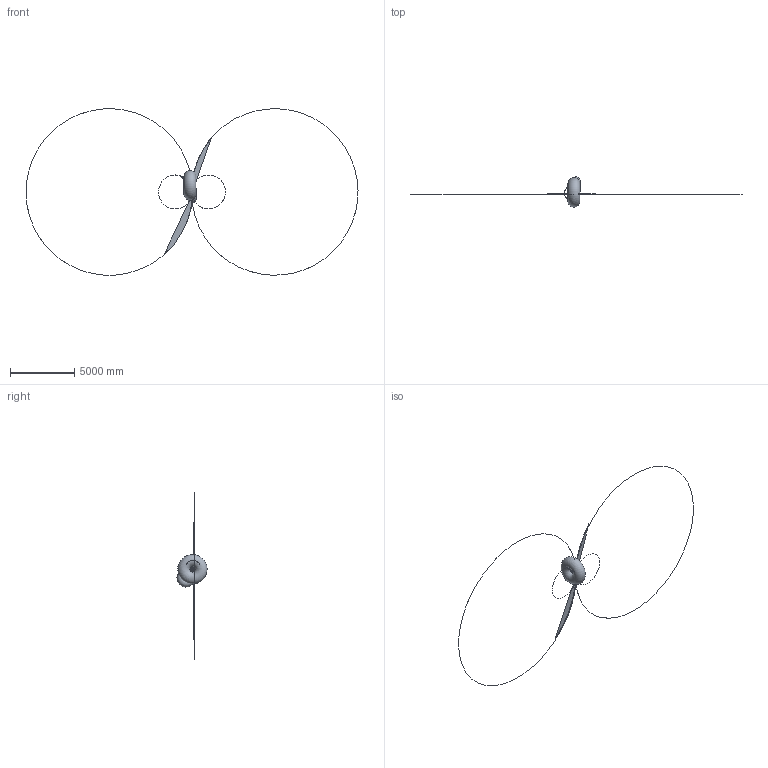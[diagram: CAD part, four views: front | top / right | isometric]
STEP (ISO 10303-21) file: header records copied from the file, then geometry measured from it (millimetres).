
FILE_DESCRIPTION((''),'2;1');
FILE_NAME('SK5_COMPLETE_ASM_ASM','2007-10-26T',('wongch01'),(''),'PRO/ENGINEER BY PARAMETRIC TECHNOLOGY CORPORATION, 2007160','PRO/ENGINEER BY PARAMETRIC TECHNOLOGY CORPORATION, 2007160','');
FILE_SCHEMA(('CONFIG_CONTROL_DESIGN'));
Products named in the file (2): _SK5_COMPLETE_ASM; SK5_COMPLETE_ASM_ASM
Assembly tree (1 placements, depth 2):
  SK5_COMPLETE_ASM_ASM
    _SK5_COMPLETE_ASM
Bounding box: 25778.95 x 2342.42 x 12918.81 mm (x, y, z)
Topology: 0 solids, 0 shells, 6637 faces, 39897 edges, 39713 vertices
Faces by surface type: bspline 6205, torus 326, sphere 106
Entity records: 746588 total; most frequent: CARTESIAN_POINT 411654, DIRECTION 46016, TRIMMED_CURVE 41744, DEFINITIONAL_REPRESENTATION 39515, PCURVE 39515, COMPOSITE_CURVE_SEGMENT 39515, VECTOR 38340, LINE 38340
